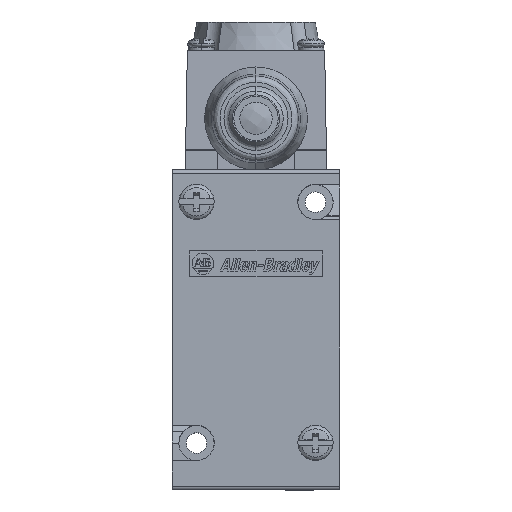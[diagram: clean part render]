
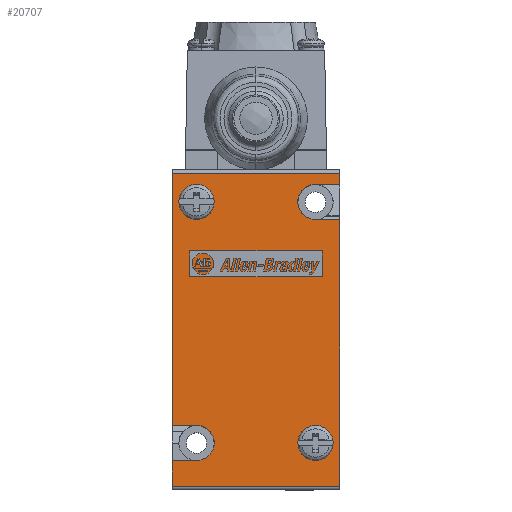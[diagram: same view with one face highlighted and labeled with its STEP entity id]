
A CAD part, top view. The second image highlights one B-rep face of the part: STEP entity #20707.
In plain terms, the highlighted planar face has unit normal (0, 0, 1).
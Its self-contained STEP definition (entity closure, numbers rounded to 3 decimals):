
#3204 = DIRECTION ( 'NONE',  ( 1., 0., 0. ) ) ;
#3206 = VECTOR ( 'NONE', #3204, 1000. ) ;
#3207 = CARTESIAN_POINT ( 'NONE',  ( 20.638, -3.531, 0. ) ) ;
#3208 = LINE ( 'NONE', #3207, #3206 ) ;
#3209 = DIRECTION ( 'NONE',  ( 0., 1., 0. ) ) ;
#3210 = VECTOR ( 'NONE', #3209, 1000. ) ;
#3212 = CARTESIAN_POINT ( 'NONE',  ( 20.637, -0.787, 0. ) ) ;
#3215 = LINE ( 'NONE', #3212, #3210 ) ;
#3266 = DIRECTION ( 'NONE',  ( 0., 1., 0. ) ) ;
#3267 = DIRECTION ( 'NONE',  ( 0., 0., -1. ) ) ;
#3268 = CARTESIAN_POINT ( 'NONE',  ( 14.681, -67.412, 0. ) ) ;
#3269 = AXIS2_PLACEMENT_3D ( 'NONE', #3268, #3267, #3266 ) ;
#3271 = CIRCLE ( 'NONE', #3269, 4.356 ) ;
#3290 = DIRECTION ( 'NONE',  ( -1., 0., 0. ) ) ;
#3291 = VECTOR ( 'NONE', #3290, 1000. ) ;
#3292 = CARTESIAN_POINT ( 'NONE',  ( 20.638, -12.268, 0. ) ) ;
#3293 = LINE ( 'NONE', #3292, #3291 ) ;
#3310 = CARTESIAN_POINT ( 'NONE',  ( 14.681, -12.268, 0. ) ) ;
#3378 = CARTESIAN_POINT ( 'NONE',  ( -20.637, -0.787, 0. ) ) ;
#3380 = CARTESIAN_POINT ( 'NONE',  ( 20.638, -0.787, 0. ) ) ;
#3437 = CARTESIAN_POINT ( 'NONE',  ( 20.638, -12.268, 0. ) ) ;
#3464 = DIRECTION ( 'NONE',  ( 0., 1., 0. ) ) ;
#3465 = DIRECTION ( 'NONE',  ( 0., 0., -1. ) ) ;
#3466 = CARTESIAN_POINT ( 'NONE',  ( -14.681, -7.899, 0. ) ) ;
#3467 = AXIS2_PLACEMENT_3D ( 'NONE', #3466, #3465, #3464 ) ;
#3468 = CIRCLE ( 'NONE', #3467, 4.356 ) ;
#3559 = DIRECTION ( 'NONE',  ( 0., 1., 0. ) ) ;
#3560 = VECTOR ( 'NONE', #3559, 1000. ) ;
#3561 = CARTESIAN_POINT ( 'NONE',  ( 20.638, -0.787, 0. ) ) ;
#3565 = LINE ( 'NONE', #3561, #3560 ) ;
#3576 = CARTESIAN_POINT ( 'NONE',  ( 14.681, -3.531, 0. ) ) ;
#3577 = CARTESIAN_POINT ( 'NONE',  ( -14.681, -63.043, 0. ) ) ;
#3664 = DIRECTION ( 'NONE',  ( 0., -1., 0. ) ) ;
#3665 = VECTOR ( 'NONE', #3664, 1000. ) ;
#3666 = CARTESIAN_POINT ( 'NONE',  ( -20.637, -0.787, 0. ) ) ;
#3667 = LINE ( 'NONE', #3666, #3665 ) ;
#4663 = CARTESIAN_POINT ( 'NONE',  ( 14.681, -71.768, 0. ) ) ;
#4827 = CIRCLE ( 'NONE', #4884, 4.356 ) ;
#4864 = CARTESIAN_POINT ( 'NONE',  ( 14.681, -63.056, 0. ) ) ;
#4865 = DIRECTION ( 'NONE',  ( 0., 1., 0. ) ) ;
#4866 = DIRECTION ( 'NONE',  ( 0., 0., -1. ) ) ;
#4867 = CARTESIAN_POINT ( 'NONE',  ( 14.681, -67.412, 0. ) ) ;
#4868 = AXIS2_PLACEMENT_3D ( 'NONE', #4867, #4866, #4865 ) ;
#4869 = CIRCLE ( 'NONE', #4868, 4.356 ) ;
#4879 = CARTESIAN_POINT ( 'NONE',  ( -14.681, -3.543, 0. ) ) ;
#4880 = CARTESIAN_POINT ( 'NONE',  ( -14.681, -12.256, 0. ) ) ;
#4881 = DIRECTION ( 'NONE',  ( 0., 1., 0. ) ) ;
#4882 = DIRECTION ( 'NONE',  ( 0., 0., -1. ) ) ;
#4883 = CARTESIAN_POINT ( 'NONE',  ( -14.681, -7.899, 0. ) ) ;
#4884 = AXIS2_PLACEMENT_3D ( 'NONE', #4883, #4882, #4881 ) ;
#13385 = CARTESIAN_POINT ( 'NONE',  ( 20.637, -3.531, 0. ) ) ;
#20501 = EDGE_CURVE ( 'NONE', #20688, #20541, #3215, .T. ) ;
#20502 = EDGE_CURVE ( 'NONE', #20764, #20688, #3208, .T. ) ;
#20509 = EDGE_CURVE ( 'NONE', #23015, #22818, #3271, .T. ) ;
#20529 = VERTEX_POINT ( 'NONE', #3310 ) ;
#20536 = EDGE_CURVE ( 'NONE', #20584, #20529, #3293, .T. ) ;
#20541 = VERTEX_POINT ( 'NONE', #3380 ) ;
#20543 = VERTEX_POINT ( 'NONE', #3378 ) ;
#20584 = VERTEX_POINT ( 'NONE', #3437 ) ;
#20599 = EDGE_CURVE ( 'NONE', #22971, #22970, #3468, .T. ) ;
#20678 = ORIENTED_EDGE ( 'NONE', *, *, #22969, .T. ) ;
#20681 = ORIENTED_EDGE ( 'NONE', *, *, #20712, .T. ) ;
#20682 = ORIENTED_EDGE ( 'NONE', *, *, #20502, .T. ) ;
#20683 = ORIENTED_EDGE ( 'NONE', *, *, #20501, .T. ) ;
#20684 = ORIENTED_EDGE ( 'NONE', *, *, #20747, .T. ) ;
#20685 = ORIENTED_EDGE ( 'NONE', *, *, #20753, .T. ) ;
#20686 = ORIENTED_EDGE ( 'NONE', *, *, #20746, .T. ) ;
#20688 = VERTEX_POINT ( 'NONE', #13385 ) ;
#20693 = ORIENTED_EDGE ( 'NONE', *, *, #20509, .T. ) ;
#20694 = ORIENTED_EDGE ( 'NONE', *, *, #23014, .T. ) ;
#20695 = EDGE_LOOP ( 'NONE', ( #20696, #20678 ) ) ;
#20696 = ORIENTED_EDGE ( 'NONE', *, *, #20599, .T. ) ;
#20707 = ADVANCED_FACE ( 'NONE', ( #22748, #22747, #22746 ), #22849, .T. ) ;
#20708 = EDGE_LOOP ( 'NONE', ( #20709, #20710, #20711, #20681, #20682, #20683, #20684, #20685, #20686, #20725, #20726, #20727 ) ) ;
#20709 = ORIENTED_EDGE ( 'NONE', *, *, #20894, .T. ) ;
#20710 = ORIENTED_EDGE ( 'NONE', *, *, #20772, .T. ) ;
#20711 = ORIENTED_EDGE ( 'NONE', *, *, #20536, .T. ) ;
#20712 = EDGE_CURVE ( 'NONE', #20529, #20764, #22837, .T. ) ;
#20725 = ORIENTED_EDGE ( 'NONE', *, *, #20870, .T. ) ;
#20726 = ORIENTED_EDGE ( 'NONE', *, *, #20848, .T. ) ;
#20727 = ORIENTED_EDGE ( 'NONE', *, *, #20782, .T. ) ;
#20728 = EDGE_LOOP ( 'NONE', ( #20693, #20694 ) ) ;
#20746 = EDGE_CURVE ( 'NONE', #20754, #20759, #23000, .T. ) ;
#20747 = EDGE_CURVE ( 'NONE', #20541, #20543, #22996, .T. ) ;
#20753 = EDGE_CURVE ( 'NONE', #20543, #20754, #22992, .T. ) ;
#20754 = VERTEX_POINT ( 'NONE', #22985 ) ;
#20759 = VERTEX_POINT ( 'NONE', #3577 ) ;
#20764 = VERTEX_POINT ( 'NONE', #3576 ) ;
#20772 = EDGE_CURVE ( 'NONE', #20892, #20584, #3565, .T. ) ;
#20782 = EDGE_CURVE ( 'NONE', #20846, #20867, #3667, .T. ) ;
#20846 = VERTEX_POINT ( 'NONE', #23254 ) ;
#20848 = EDGE_CURVE ( 'NONE', #20868, #20846, #23236, .T. ) ;
#20867 = VERTEX_POINT ( 'NONE', #23203 ) ;
#20868 = VERTEX_POINT ( 'NONE', #23201 ) ;
#20870 = EDGE_CURVE ( 'NONE', #20759, #20868, #23195, .T. ) ;
#20892 = VERTEX_POINT ( 'NONE', #31453 ) ;
#20894 = EDGE_CURVE ( 'NONE', #20867, #20892, #31451, .T. ) ;
#22746 = FACE_BOUND ( 'NONE', #20695, .T. ) ;
#22747 = FACE_BOUND ( 'NONE', #20728, .T. ) ;
#22748 = FACE_OUTER_BOUND ( 'NONE', #20708, .T. ) ;
#22818 = VERTEX_POINT ( 'NONE', #4663 ) ;
#22832 = DIRECTION ( 'NONE',  ( 0., 1., 0. ) ) ;
#22833 = DIRECTION ( 'NONE',  ( 0., 0., -1. ) ) ;
#22835 = CARTESIAN_POINT ( 'NONE',  ( 14.681, -7.899, 0. ) ) ;
#22836 = AXIS2_PLACEMENT_3D ( 'NONE', #22835, #22833, #22832 ) ;
#22837 = CIRCLE ( 'NONE', #22836, 4.369 ) ;
#22840 = DIRECTION ( 'NONE',  ( 0., -1., 0. ) ) ;
#22841 = DIRECTION ( 'NONE',  ( 0., 0., 1. ) ) ;
#22842 = CARTESIAN_POINT ( 'NONE',  ( 20.638, -0.787, 0. ) ) ;
#22844 = AXIS2_PLACEMENT_3D ( 'NONE', #22842, #22841, #22840 ) ;
#22849 = PLANE ( 'NONE',  #22844 ) ;
#22969 = EDGE_CURVE ( 'NONE', #22970, #22971, #4827, .T. ) ;
#22970 = VERTEX_POINT ( 'NONE', #4880 ) ;
#22971 = VERTEX_POINT ( 'NONE', #4879 ) ;
#22985 = CARTESIAN_POINT ( 'NONE',  ( -20.637, -63.043, 0. ) ) ;
#22987 = DIRECTION ( 'NONE',  ( 0., -1., 0. ) ) ;
#22988 = VECTOR ( 'NONE', #22987, 1000. ) ;
#22991 = CARTESIAN_POINT ( 'NONE',  ( -20.637, -0.787, 0. ) ) ;
#22992 = LINE ( 'NONE', #22991, #22988 ) ;
#22993 = DIRECTION ( 'NONE',  ( -1., 0., 0. ) ) ;
#22994 = VECTOR ( 'NONE', #22993, 1000. ) ;
#22995 = CARTESIAN_POINT ( 'NONE',  ( 20.638, -0.787, 0. ) ) ;
#22996 = LINE ( 'NONE', #22995, #22994 ) ;
#22997 = DIRECTION ( 'NONE',  ( 1., 0., 0. ) ) ;
#22998 = VECTOR ( 'NONE', #22997, 1000. ) ;
#22999 = CARTESIAN_POINT ( 'NONE',  ( 20.638, -63.043, 0. ) ) ;
#23000 = LINE ( 'NONE', #22999, #22998 ) ;
#23014 = EDGE_CURVE ( 'NONE', #22818, #23015, #4869, .T. ) ;
#23015 = VERTEX_POINT ( 'NONE', #4864 ) ;
#23190 = DIRECTION ( 'NONE',  ( 0., 1., 0. ) ) ;
#23191 = DIRECTION ( 'NONE',  ( 0., 0., -1. ) ) ;
#23192 = CARTESIAN_POINT ( 'NONE',  ( -14.681, -67.412, 0. ) ) ;
#23193 = AXIS2_PLACEMENT_3D ( 'NONE', #23192, #23191, #23190 ) ;
#23195 = CIRCLE ( 'NONE', #23193, 4.369 ) ;
#23201 = CARTESIAN_POINT ( 'NONE',  ( -14.681, -71.78, 0. ) ) ;
#23203 = CARTESIAN_POINT ( 'NONE',  ( -20.637, -78.156, 0. ) ) ;
#23229 = DIRECTION ( 'NONE',  ( -1., 0., 0. ) ) ;
#23230 = VECTOR ( 'NONE', #23229, 1000. ) ;
#23233 = CARTESIAN_POINT ( 'NONE',  ( 20.638, -71.78, 0. ) ) ;
#23236 = LINE ( 'NONE', #23233, #23230 ) ;
#23254 = CARTESIAN_POINT ( 'NONE',  ( -20.637, -71.78, 0. ) ) ;
#31448 = DIRECTION ( 'NONE',  ( 1., 0., 0. ) ) ;
#31449 = VECTOR ( 'NONE', #31448, 1000. ) ;
#31450 = CARTESIAN_POINT ( 'NONE',  ( 20.638, -78.156, 0. ) ) ;
#31451 = LINE ( 'NONE', #31450, #31449 ) ;
#31453 = CARTESIAN_POINT ( 'NONE',  ( 20.638, -78.156, 0. ) ) ;
